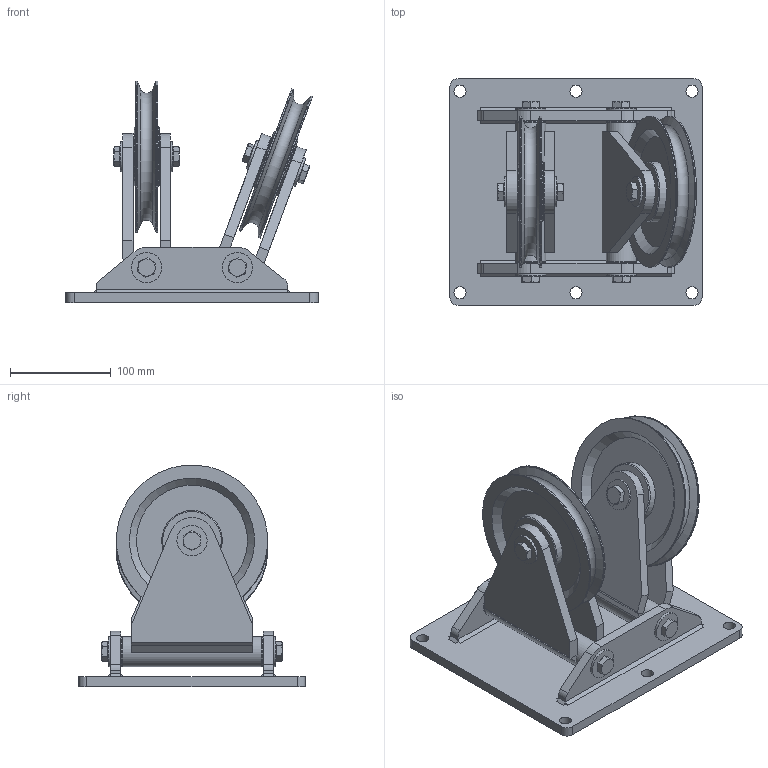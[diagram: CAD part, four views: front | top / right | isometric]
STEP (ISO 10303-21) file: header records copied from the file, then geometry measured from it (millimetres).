
FILE_DESCRIPTION(/* description */ ('Seilrolle ø150 zweifach Schwenkbar SZ 150 G'),/* implementation_level */ '2;1');
FILE_NAME(/* name */ 'Z:\Workspace\03 Seilrollen\1.410 Seilrollen zweifach schwenkbar Gleitlager\1.410.02 Seilrolle ø150 zweifach schwenkbar SZ 150 G\1.410.02 Seilrolle ø150 zweifach Schwenkbar SZ 150 G.stp',/* time_stamp */ '2021-10-18T13:45:23+02:00',/* author */ ('cad-user'),/* organization */ (''),/* preprocessor_version */ 'ST-DEVELOPER v18',/* originating_system */ 'Autodesk Inventor 2020',/* authorisation */ '');
FILE_SCHEMA (('AUTOMOTIVE_DESIGN { 1 0 10303 214 3 1 1 }'));
Length unit declared in the file: millimetre
Products named in the file (18): 1.410.02 Seilrolle ø150 zweifach schwenkbar SZ 150 
G; 1.410.02.01 Konsole Schweißteil; 1.410.02.01 Konsole Schweißteil_1; 1.410.02.02 Platte 1; 1.410.02.03 Platte 2; 1.409.02.07 Achse 1; 1.409.02.08 Achse 2; 1.409.02.06  Schwenkkonsole Schweißteil; 1.409.02.06  Schwenkkonsole Schweißteil_1; 1.409.02.05 Rohr; 1.409.02.04 Platte 3; 1.409.02.04 Platte 3_1; 1.401.05 Seilrolle ø150 Buchse komplett ; 1.401.05 Seilrolle ø150 Buchse ; Lagerbuchse 2025-DU; BB2022DU; DIN 9021 - 10,5; DIN 933 - M10  x 25
Assembly tree (39 placements, depth 3):
  1.410.02 Seilrolle ø150 zweifach schwenkbar SZ 150 
G
    1.410.02.01 Konsole Schweißteil
      1.410.02.01 Konsole Schweißteil_1
      1.410.02.02 Platte 1
      1.410.02.03 Platte 2  x2
    1.409.02.06  Schwenkkonsole Schweißteil  x2
      1.409.02.06  Schwenkkonsole Schweißteil_1
      1.409.02.05 Rohr
      1.409.02.04 Platte 3
      1.409.02.04 Platte 3_1
    1.409.02.07 Achse 1  x2
    1.409.02.08 Achse 2  x2
    1.401.05 Seilrolle ø150 Buchse komplett   x2
      1.401.05 Seilrolle ø150 Buchse 
      Lagerbuchse 2025-DU
    DIN 9021 - 10,5  x8
    DIN 933 - M10  x 25  x8
    BB2022DU  x4
Bounding box: 250 x 225 x 219.84 mm (x, y, z)
Volume: 1780740.4 mm3; surface area: 520844.9 mm2
Topology: 49 solids, 49 shells, 496 faces, 1128 edges, 754 vertices
Faces by surface type: plane 270, cylinder 120, cone 92, torus 14
Full cylindrical faces by diameter (mm): 8.376 x6, 9.188 x8, 10 x8, 10.5 x8, 12 x6, 13 x4, 15.4 x8, 20 x8, 22 x2, 23 x6, 30 x10, 60 x4, 150 x4
Entity records: 6260 total; most frequent: DIRECTION 1064, CARTESIAN_POINT 1035, ORIENTED_EDGE 854, EDGE_CURVE 427, AXIS2_PLACEMENT_3D 412, VERTEX_POINT 291, LINE 240, VECTOR 240
